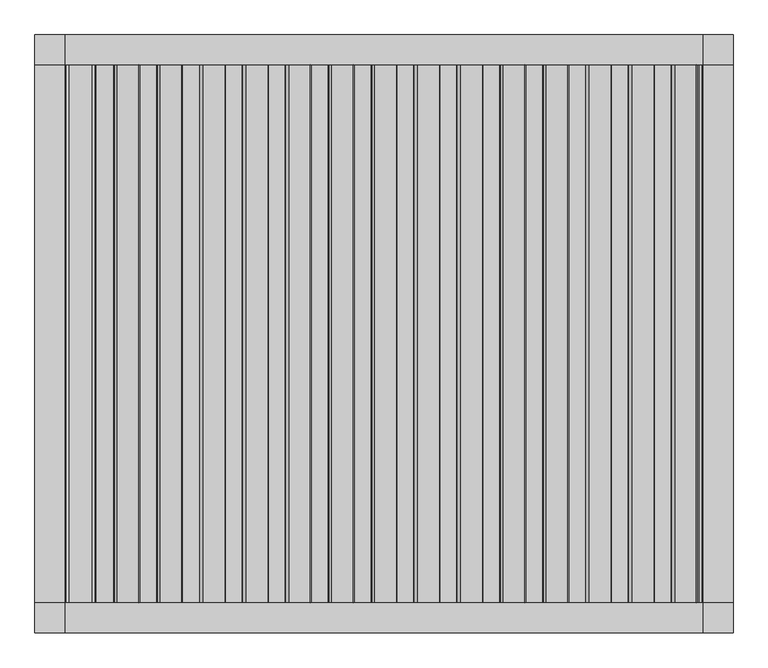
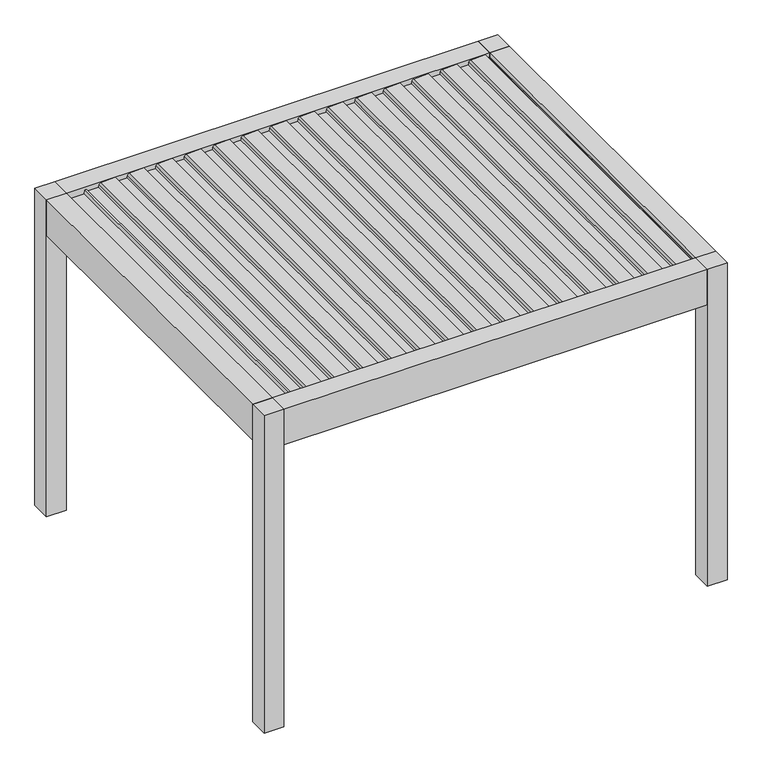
"""IFC4 building model written with IfcOpenShell, lengths in millimetres: proxy geometry, Renson_Amani_Patio_Cover : Renson_Amani_Patio_Cover."""

from ifc_helpers import new_model, si_unit, point, frame, frame_2d, origin, origin_with_axes, place, context, project, spatial, polyline, circle_curve, trimmed, segment, composite_curve, outline, extrude, source, transform, mapped, element, save


def generic_models_ee4b6018(model_context):
    return source(origin(), model_context, "Body", "SweptSolid", [
        extrude(outline(composite_curve([segment(polyline([(2483.35, 1323.7313417), (2511.01198, 1326.1514513), (2512.3970364, 1354.9867018), (2531.8911096, 1351.5493707), (2526.6075693, 1241.5522559)]), True, "CONTINUOUS"), segment(trimmed(circle_curve(frame_2d((2511.6248435, 1242.2719278)), 15.0), [point((2526.6075693, 1241.5522559))], [point((2514.2295662, 1227.4998115))], False, "CARTESIAN"), True, "CONTINUOUS"), segment(polyline([(2514.2295662, 1227.4998115), (2495.0, 1224.1091202), (2495.0, 1136.3733441), (2512.0788237, 1133.3618867), (2511.3450182, 1118.0849163), (2483.35, 1115.6356695), (2483.35, 1323.7313417)]), True, "CONTINUOUS")], self_intersect=False)), frame((0.0, -1350.0, 0.0), z_axis=(0.0, 1.0, 0.0), x_axis=(0.0, 0.0, 1.0)), (0.0, 0.0, 1.0), 2700.0),
        extrude(outline(composite_curve([segment(polyline([(2483.35, 1108.7180435), (2511.01198, 1111.1381532), (2512.3970364, 1139.9734036), (2531.8911096, 1136.5360725), (2526.6075693, 1026.5389577)]), True, "CONTINUOUS"), segment(trimmed(circle_curve(frame_2d((2511.6248435, 1027.2586296)), 15.0), [point((2526.6075693, 1026.5389577))], [point((2514.2295662, 1012.4865133))], False, "CARTESIAN"), True, "CONTINUOUS"), segment(polyline([(2514.2295662, 1012.4865133), (2495.0, 1009.095822), (2495.0, 921.360046), (2512.0788237, 918.3485885), (2511.3450182, 903.0716181), (2483.35, 900.6223713), (2483.35, 1108.7180435)]), True, "CONTINUOUS")], self_intersect=False)), frame((0.0, -1350.0, 0.0), z_axis=(0.0, 1.0, 0.0), x_axis=(0.0, 0.0, 1.0)), (0.0, 0.0, 1.0), 2700.0),
        extrude(outline(composite_curve([segment(polyline([(2483.35, 893.7047453), (2511.01198, 896.124855), (2512.3970364, 924.9601054), (2531.8911096, 921.5227743), (2526.6075693, 811.5256595)]), True, "CONTINUOUS"), segment(trimmed(circle_curve(frame_2d((2511.6248435, 812.2453314)), 15.0), [point((2526.6075693, 811.5256595))], [point((2514.2295662, 797.4732151))], False, "CARTESIAN"), True, "CONTINUOUS"), segment(polyline([(2514.2295662, 797.4732151), (2495.0, 794.0825238), (2495.0, 706.3467478), (2512.0788237, 703.3352903), (2511.3450182, 688.0583199), (2483.35, 685.6090731), (2483.35, 893.7047453)]), True, "CONTINUOUS")], self_intersect=False)), frame((0.0, -1350.0, 0.0), z_axis=(0.0, 1.0, 0.0), x_axis=(0.0, 0.0, 1.0)), (0.0, 0.0, 1.0), 2700.0),
        extrude(outline(composite_curve([segment(polyline([(2483.35, 678.6914471), (2511.01198, 681.1115568), (2512.3970364, 709.9468072), (2531.8911096, 706.5094762), (2526.6075693, 596.5123613)]), True, "CONTINUOUS"), segment(trimmed(circle_curve(frame_2d((2511.6248435, 597.2320332)), 15.0), [point((2526.6075693, 596.5123613))], [point((2514.2295662, 582.4599169))], False, "CARTESIAN"), True, "CONTINUOUS"), segment(polyline([(2514.2295662, 582.4599169), (2495.0, 579.0692256), (2495.0, 491.3334496), (2512.0788237, 488.3219922), (2511.3450182, 473.0450217), (2483.35, 470.595775), (2483.35, 678.6914471)]), True, "CONTINUOUS")], self_intersect=False)), frame((0.0, -1350.0, 0.0), z_axis=(0.0, 1.0, 0.0), x_axis=(0.0, 0.0, 1.0)), (0.0, 0.0, 1.0), 2700.0),
        extrude(outline(composite_curve([segment(polyline([(2483.35, 463.6781489), (2511.01198, 466.0982586), (2512.3970364, 494.933509), (2531.8911096, 491.496178), (2526.6075693, 381.4990631)]), True, "CONTINUOUS"), segment(trimmed(circle_curve(frame_2d((2511.6248435, 382.218735)), 15.0), [point((2526.6075693, 381.4990631))], [point((2514.2295662, 367.4466187))], False, "CARTESIAN"), True, "CONTINUOUS"), segment(polyline([(2514.2295662, 367.4466187), (2495.0, 364.0559274), (2495.0, 276.3201514), (2512.0788237, 273.308694), (2511.3450182, 258.0317235), (2483.35, 255.5824768), (2483.35, 463.6781489)]), True, "CONTINUOUS")], self_intersect=False)), frame((0.0, -1350.0, 0.0), z_axis=(0.0, 1.0, 0.0), x_axis=(0.0, 0.0, 1.0)), (0.0, 0.0, 1.0), 2700.0),
        extrude(outline(composite_curve([segment(polyline([(2483.35, 248.6648507), (2511.01198, 251.0849604), (2512.3970364, 279.9202108), (2531.8911096, 276.4828798), (2526.6075693, 166.4857649)]), True, "CONTINUOUS"), segment(trimmed(circle_curve(frame_2d((2511.6248435, 167.2054368)), 15.0), [point((2526.6075693, 166.4857649))], [point((2514.2295662, 152.4333206))], False, "CARTESIAN"), True, "CONTINUOUS"), segment(polyline([(2514.2295662, 152.4333206), (2495.0, 149.0426292), (2495.0, 61.3068532), (2512.0788237, 58.2953958), (2511.3450182, 43.0184253), (2483.35, 40.5691786), (2483.35, 248.6648507)]), True, "CONTINUOUS")], self_intersect=False)), frame((0.0, -1350.0, 0.0), z_axis=(0.0, 1.0, 0.0), x_axis=(0.0, 0.0, 1.0)), (0.0, 0.0, 1.0), 2700.0),
        extrude(outline(composite_curve([segment(polyline([(2483.35, 33.6515525), (2511.01198, 36.0716622), (2512.3970364, 64.9069127), (2531.8911096, 61.4695816), (2526.6075693, -48.5275333)]), True, "CONTINUOUS"), segment(trimmed(circle_curve(frame_2d((2511.6248435, -47.8078613)), 15.0), [point((2526.6075693, -48.5275333))], [point((2514.2295662, -62.5799776))], False, "CARTESIAN"), True, "CONTINUOUS"), segment(polyline([(2514.2295662, -62.5799776), (2495.0, -65.970669), (2495.0, -153.706445), (2512.0788237, -156.7179024), (2511.3450182, -171.9948729), (2483.35, -174.4441196), (2483.35, 33.6515525)]), True, "CONTINUOUS")], self_intersect=False)), frame((0.0, -1350.0, 0.0), z_axis=(0.0, 1.0, 0.0), x_axis=(0.0, 0.0, 1.0)), (0.0, 0.0, 1.0), 2700.0),
        extrude(outline(composite_curve([segment(polyline([(2483.35, -181.3617457), (2511.01198, -178.941636), (2512.3970364, -150.1063855), (2531.8911096, -153.5437166), (2526.6075693, -263.5408315)]), True, "CONTINUOUS"), segment(trimmed(circle_curve(frame_2d((2511.6248435, -262.8211595)), 15.0), [point((2526.6075693, -263.5408315))], [point((2514.2295662, -277.5932758))], False, "CARTESIAN"), True, "CONTINUOUS"), segment(polyline([(2514.2295662, -277.5932758), (2495.0, -280.9839672), (2495.0, -368.7197432), (2512.0788237, -371.7312006), (2511.3450182, -387.0081711), (2483.35, -389.4574178), (2483.35, -181.3617457)]), True, "CONTINUOUS")], self_intersect=False)), frame((0.0, -1350.0, 0.0), z_axis=(0.0, 1.0, 0.0), x_axis=(0.0, 0.0, 1.0)), (0.0, 0.0, 1.0), 2700.0),
        extrude(outline(composite_curve([segment(polyline([(2483.35, -396.3750439), (2511.01198, -393.9549342), (2512.3970364, -365.1196837), (2531.8911096, -368.5570148), (2526.6075693, -478.5541297)]), True, "CONTINUOUS"), segment(trimmed(circle_curve(frame_2d((2511.6248435, -477.8344577)), 15.0), [point((2526.6075693, -478.5541297))], [point((2514.2295662, -492.606574))], False, "CARTESIAN"), True, "CONTINUOUS"), segment(polyline([(2514.2295662, -492.606574), (2495.0, -495.9972654), (2495.0, -583.7330414), (2512.0788237, -586.7444988), (2511.3450182, -602.0214693), (2483.35, -604.470716), (2483.35, -396.3750439)]), True, "CONTINUOUS")], self_intersect=False)), frame((0.0, -1350.0, 0.0), z_axis=(0.0, 1.0, 0.0), x_axis=(0.0, 0.0, 1.0)), (0.0, 0.0, 1.0), 2700.0),
        extrude(outline(composite_curve([segment(polyline([(2483.35, -611.388342), (2511.01198, -608.9682324), (2512.3970364, -580.1329819), (2531.8911096, -583.570313), (2526.6075693, -693.5674279)]), True, "CONTINUOUS"), segment(trimmed(circle_curve(frame_2d((2511.6248435, -692.8477559)), 15.0), [point((2526.6075693, -693.5674279))], [point((2514.2295662, -707.6198722))], False, "CARTESIAN"), True, "CONTINUOUS"), segment(polyline([(2514.2295662, -707.6198722), (2495.0, -711.0105636), (2495.0, -798.7463396), (2512.0788237, -801.757797), (2511.3450182, -817.0347675), (2483.35, -819.4840142), (2483.35, -611.388342)]), True, "CONTINUOUS")], self_intersect=False)), frame((0.0, -1350.0, 0.0), z_axis=(0.0, 1.0, 0.0), x_axis=(0.0, 0.0, 1.0)), (0.0, 0.0, 1.0), 2700.0),
        extrude(outline(composite_curve([segment(polyline([(2483.35, -826.4016402), (2511.01198, -823.9815306), (2512.3970364, -795.1462801), (2531.8911096, -798.5836112), (2526.6075693, -908.580726)]), True, "CONTINUOUS"), segment(trimmed(circle_curve(frame_2d((2511.6248435, -907.8610541)), 15.0), [point((2526.6075693, -908.580726))], [point((2514.2295662, -922.6331704))], False, "CARTESIAN"), True, "CONTINUOUS"), segment(polyline([(2514.2295662, -922.6331704), (2495.0, -926.0238618), (2495.0, -1013.7596378), (2512.0788237, -1016.7710952), (2511.3450182, -1032.0480657), (2483.35, -1034.4973124), (2483.35, -826.4016402)]), True, "CONTINUOUS")], self_intersect=False)), frame((0.0, -1350.0, 0.0), z_axis=(0.0, 1.0, 0.0), x_axis=(0.0, 0.0, 1.0)), (0.0, 0.0, 1.0), 2700.0),
        extrude(outline(composite_curve([segment(polyline([(2483.35, -1041.4149384), (2511.01198, -1038.9948288), (2512.3970364, -1010.1595783), (2531.8911096, -1013.5969094), (2526.6075693, -1123.5940242)]), True, "CONTINUOUS"), segment(trimmed(circle_curve(frame_2d((2511.6248435, -1122.8743523)), 15.0), [point((2526.6075693, -1123.5940242))], [point((2514.2295662, -1137.6464686))], False, "CARTESIAN"), True, "CONTINUOUS"), segment(polyline([(2514.2295662, -1137.6464686), (2495.0, -1141.0371599), (2495.0, -1228.772936), (2512.0788237, -1231.7843934), (2511.3450182, -1247.0613639), (2483.35, -1249.5106106), (2483.35, -1041.4149384)]), True, "CONTINUOUS")], self_intersect=False)), frame((0.0, -1350.0, 0.0), z_axis=(0.0, 1.0, 0.0), x_axis=(0.0, 0.0, 1.0)), (0.0, 0.0, 1.0), 2700.0),
        extrude(outline(composite_curve([segment(polyline([(2483.35, 1538.7446399), (2511.01198, 1541.1647495), (2512.3970364, 1570.0), (2531.8911096, 1566.5626689), (2526.6075693, 1456.5655541)]), True, "CONTINUOUS"), segment(trimmed(circle_curve(frame_2d((2511.6248435, 1457.285226)), 15.0), [point((2526.6075693, 1456.5655541))], [point((2514.2295662, 1442.5131097))], False, "CARTESIAN"), True, "CONTINUOUS"), segment(polyline([(2514.2295662, 1442.5131097), (2495.0, 1439.1224184), (2495.0, 1351.3866423), (2512.0788237, 1348.3751849), (2511.3450182, 1333.0982144), (2483.35, 1330.6489677), (2483.35, 1538.7446399)]), True, "CONTINUOUS")], self_intersect=False)), frame((0.0, -1350.0, 0.0), z_axis=(0.0, 1.0, 0.0), x_axis=(0.0, 0.0, 1.0)), (0.0, 0.0, 1.0), 2700.0),
        extrude(outline(composite_curve([segment(polyline([(2483.35, -1256.4282366), (2511.01198, -1254.008127), (2512.3970364, -1225.1728765), (2531.8911096, -1228.6102076), (2526.6075693, -1338.6073224)]), True, "CONTINUOUS"), segment(trimmed(circle_curve(frame_2d((2511.6248435, -1337.8876505)), 15.0), [point((2526.6075693, -1338.6073224))], [point((2514.2295662, -1352.6597668))], False, "CARTESIAN"), True, "CONTINUOUS"), segment(polyline([(2514.2295662, -1352.6597668), (2495.0, -1356.0504581), (2495.0, -1443.7862342), (2512.0788237, -1446.7976916), (2511.3450182, -1462.0746621), (2483.35, -1464.5239088), (2483.35, -1256.4282366)]), True, "CONTINUOUS")], self_intersect=False)), frame((0.0, -1350.0, 0.0), z_axis=(0.0, 1.0, 0.0), x_axis=(0.0, 0.0, 1.0)), (0.0, 0.0, 1.0), 2700.0),
        extrude(outline(polyline([(1750.0, -1350.0), (1750.0, -1500.0), (1600.0, -1500.0), (1600.0, -1350.0), (1750.0, -1350.0)])), origin_with_axes(), (0.0, 0.0, 1.0), 2535.0),
        extrude(outline(polyline([(1750.0, 1500.0), (1750.0, 1350.0), (1600.0, 1350.0), (1600.0, 1500.0), (1750.0, 1500.0)])), origin_with_axes(), (0.0, 0.0, 1.0), 2535.0),
        extrude(outline(polyline([(-1600.0, 1350.0), (-1750.0, 1350.0), (-1750.0, 1500.0), (-1600.0, 1500.0), (-1600.0, 1350.0)])), origin_with_axes(), (0.0, 0.0, 1.0), 2535.0),
        extrude(outline(polyline([(-1600.0, -1350.0), (-1600.0, -1500.0), (-1750.0, -1500.0), (-1750.0, -1350.0), (-1600.0, -1350.0)])), origin_with_axes(), (0.0, 0.0, 1.0), 2535.0),
        extrude(outline(polyline([(2466.6559373, -1600.0), (2466.6559373, -1470.0), (2480.6555802, -1466.2487113), (2480.6555802, -1579.5940945), (2496.400763, -1595.0), (2504.2449277, -1595.0), (2504.6823598, -1600.0), (2466.6559373, -1600.0)])), frame((0.0, -1350.0, 0.0), z_axis=(0.0, 1.0, 0.0), x_axis=(0.0, 0.0, 1.0)), (0.0, 0.0, 1.0), 2700.0),
        extrude(outline(polyline([(-1600.0, -1350.0), (-1750.0, -1350.0), (-1750.0, 1350.0), (-1600.0, 1350.0), (-1600.0, -1350.0)])), frame((0.0, 0.0, 2250.0), z_axis=(0.0, 0.0, 1.0), x_axis=(1.0, 0.0, 0.0)), (0.0, 0.0, 1.0), 285.0),
        extrude(outline(polyline([(2535.0, 1750.0), (2535.0, 1600.0), (2504.6904658, 1600.0), (2504.2449277, 1595.0), (2496.400763, 1595.0), (2480.6555802, 1579.2544156), (2480.6555802, 1569.9090324), (2466.6559373, 1573.6603211), (2466.6559373, 1600.0), (2250.0, 1600.0), (2250.0, 1750.0), (2535.0, 1750.0)])), frame((0.0, -1350.0, 0.0), z_axis=(0.0, 1.0, 0.0), x_axis=(0.0, 0.0, 1.0)), (0.0, 0.0, 1.0), 2700.0),
        extrude(outline(polyline([(-1350.0, 2535.0), (-1350.0, 2322.0), (-1280.0000001, 2322.0), (-1280.0000001, 2250.0), (-1500.0, 2250.0), (-1500.0, 2535.0), (-1350.0, 2535.0)])), frame((-1600.0, 0.0, 0.0), z_axis=(1.0, 0.0, 0.0), x_axis=(0.0, 1.0, 0.0)), (0.0, 0.0, 1.0), 3200.0),
        extrude(outline(polyline([(1500.0, 2250.0), (1280.0000001, 2250.0), (1280.0000001, 2322.0), (1350.0, 2322.0), (1350.0, 2535.0), (1500.0, 2535.0), (1500.0, 2250.0)])), frame((-1600.0, 0.0, 0.0), z_axis=(1.0, 0.0, 0.0), x_axis=(0.0, 1.0, 0.0)), (0.0, 0.0, 1.0), 3200.0),
    ])


if __name__ == "__main__":
    model = new_model("IFC4")
    model_context = context("Model", 3, world=origin())
    ifc_project = project(units=[si_unit("LENGTHUNIT", "METRE", prefix="MILLI")], contexts=[model_context])
    site = spatial("IfcSite", under=ifc_project)
    building = spatial("IfcBuilding", under=site)
    placement = place(None, origin())
    generic_models_shape = generic_models_ee4b6018(model_context)
    element("IfcBuildingElementProxy", 1, Name="Renson_Amani_Patio_Cover : Renson_Amani_Patio_Cover", ObjectType="Renson_Amani_Patio_Cover : Renson_Amani_Patio_Cover", at=placement, inside=building, context=model_context, shape_type="MappedRepresentation", body=[
        mapped(generic_models_shape, transform((0.0, 0.0, 0.0), x_axis=(1.0, 0.0, 0.0), y_axis=(0.0, 1.0, 0.0), z_axis=(0.0, 0.0, 1.0))),
    ])
    save(model, "model.ifc")
